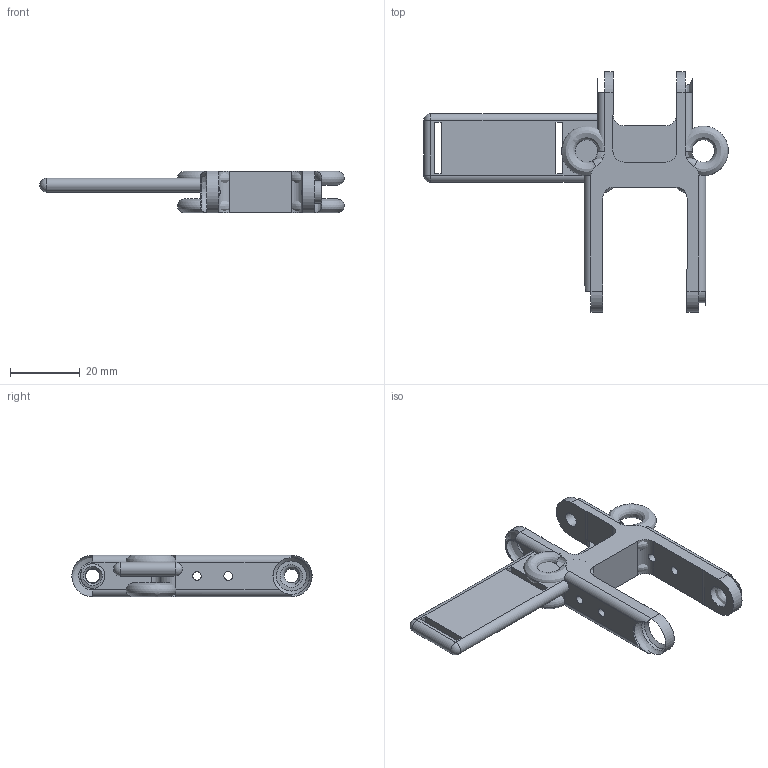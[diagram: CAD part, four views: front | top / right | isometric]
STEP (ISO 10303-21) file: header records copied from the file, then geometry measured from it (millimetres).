
FILE_DESCRIPTION(('Open CASCADE Model'),'2;1');
FILE_NAME('Open CASCADE Shape Model','2026-11-14T14:47:17',('Author'),( 'Open CASCADE'),'Open CASCADE STEP processor 8.0','Open CASCADE 8.0' ,'Unknown');
FILE_SCHEMA(('AUTOMOTIVE_DESIGN { 1 0 10303 214 1 1 1 1 }'));
Length unit declared in the file: millimetre
Products named in the file (1): Open CASCADE STEP translator 8.0 2
Bounding box: 87.57 x 69.15 x 12 mm (x, y, z)
Volume: 9304.3 mm3; surface area: 10840.5 mm2
Topology: 1 solids, 1 shells, 86 faces, 263 edges, 164 vertices
Faces by surface type: cylinder 40, plane 29, revolution 12, cone 3, sphere 2
Full cylindrical faces by diameter (mm): 2.5 x4, 4.2 x2, 6.5 x1, 7.07 x1, 10.57 x1
Entity records: 10699 total; most frequent: CARTESIAN_POINT 5613, DIRECTION 907, ORIENTED_EDGE 522, PCURVE 522, DEFINITIONAL_REPRESENTATION 522, LINE 514, VECTOR 514, EDGE_CURVE 261
